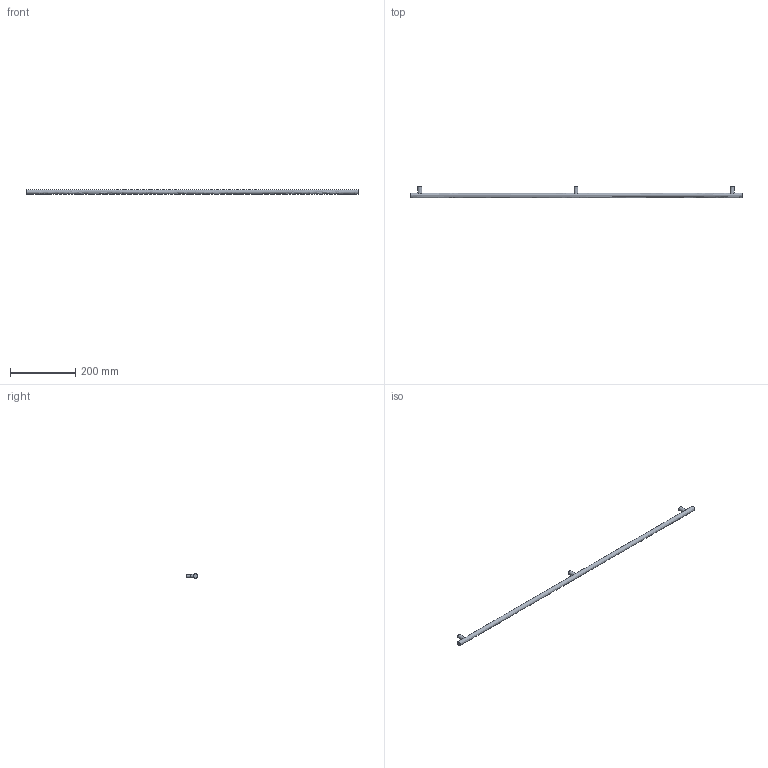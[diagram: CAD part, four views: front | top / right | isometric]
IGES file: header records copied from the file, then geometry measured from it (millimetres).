
Start section: Data from Parasolid IGES Translator 15.0.47, Copyright(c) 2006 Siemens P LM Software. All Rights Reserved.
Global section: file name: 9071116.igs; native system:  By UGS Corp.; preprocessor: XPlus GENERIC/IGES 3.0; author: Noname; organization: Noname; date: 20140122.181447; units: millimetre
Bounding box: 1020 x 35 x 14 mm (x, y, z)
Surface area: 48127.6 mm2 (no closed solid volume)
Topology: 0 solids, 0 shells, 15 faces, 42 edges, 30 vertices
Faces by surface type: extrusion 8, revolution 7
